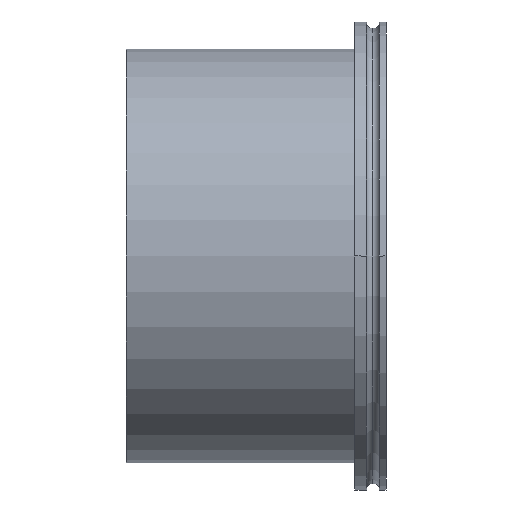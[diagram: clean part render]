
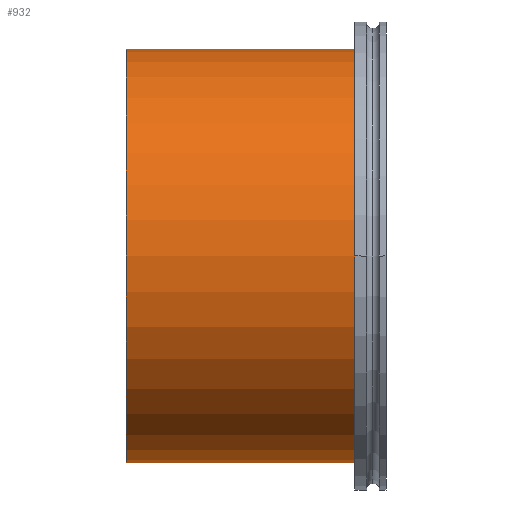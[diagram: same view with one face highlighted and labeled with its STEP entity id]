
A CAD part, front view. The second image highlights one B-rep face of the part: STEP entity #932.
In plain terms, the highlighted cylindrical face has radius 79.5 mm (diameter 159 mm), a partial arc.
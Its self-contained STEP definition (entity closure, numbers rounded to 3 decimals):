
#786=CARTESIAN_POINT('',(-88.,0.,-79.5));
#787=VERTEX_POINT('',#786);
#788=CARTESIAN_POINT('',(6.,0.,-79.5));
#789=VERTEX_POINT('',#788);
#790=CARTESIAN_POINT('',(-88.,0.,-79.5));
#791=DIRECTION('',(1.0,0.0,0.0));
#792=VECTOR('',#791,94.0);
#793=LINE('',#790,#792);
#794=EDGE_CURVE('',#787,#789,#793,.T.);
#796=CARTESIAN_POINT('',(-88.,0.,79.5));
#797=VERTEX_POINT('',#796);
#805=CARTESIAN_POINT('',(6.,0.,79.5));
#806=VERTEX_POINT('',#805);
#807=CARTESIAN_POINT('',(6.,0.,79.5));
#808=DIRECTION('',(-1.0,0.0,0.0));
#809=VECTOR('',#808,94.0);
#810=LINE('',#807,#809);
#811=EDGE_CURVE('',#806,#797,#810,.T.);
#909=CARTESIAN_POINT('',(-88.,0.0,0.0));
#910=DIRECTION('',(1.0,0.0,0.0));
#911=DIRECTION('',(0.0,0.0,-1.0));
#912=AXIS2_PLACEMENT_3D('',#909,#910,#911);
#913=CYLINDRICAL_SURFACE('',#912,79.5);
#914=ORIENTED_EDGE('',*,*,#794,.T.);
#915=CARTESIAN_POINT('',(6.,0.0,0.0));
#916=DIRECTION('',(1.0,0.0,0.0));
#917=DIRECTION('',(0.0,0.0,-1.0));
#918=AXIS2_PLACEMENT_3D('',#915,#916,#917);
#919=CIRCLE('',#918,79.5);
#920=EDGE_CURVE('',#806,#789,#919,.T.);
#921=ORIENTED_EDGE('',*,*,#920,.F.);
#922=ORIENTED_EDGE('',*,*,#811,.T.);
#923=CARTESIAN_POINT('',(-88.,0.0,0.0));
#924=DIRECTION('',(-1.0,0.0,0.0));
#925=DIRECTION('',(0.0,0.0,-1.0));
#926=AXIS2_PLACEMENT_3D('',#923,#924,#925);
#927=CIRCLE('',#926,79.5);
#928=EDGE_CURVE('',#787,#797,#927,.T.);
#929=ORIENTED_EDGE('',*,*,#928,.F.);
#930=EDGE_LOOP('',(#914,#921,#922,#929));
#931=FACE_OUTER_BOUND('',#930,.T.);
#932=ADVANCED_FACE('',(#931),#913,.T.);
